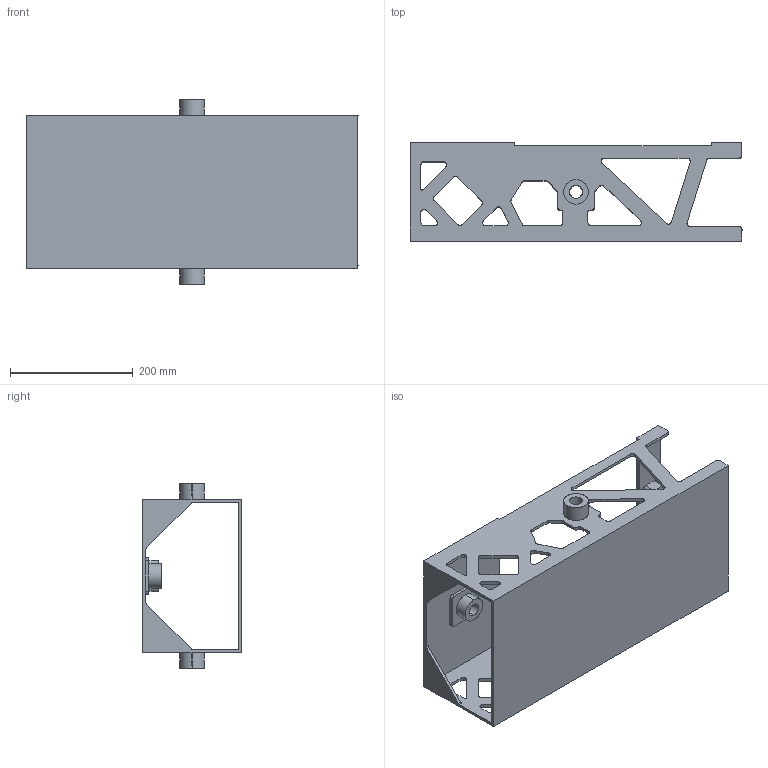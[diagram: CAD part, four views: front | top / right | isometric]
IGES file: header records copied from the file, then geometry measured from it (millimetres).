
Start section: SolidWorks IGES file using analytic representation for surfaces
Global section: file name: C:\Users\kaziw\OneDrive\Desktop\FEM PROJECT\CAD FILES\CHASSIS\OPTIMISED CHASSIS V3.IGS; native system: SolidWorks 2023; preprocessor: SolidWorks 2023; author: kaziw; date: 241118.153336; units: millimetre
Bounding box: 540 x 160 x 300 mm (x, y, z)
Surface area: 638543.1 mm2 (no closed solid volume)
Topology: 0 solids, 0 shells, 205 faces, 2748 edges, 2748 vertices
Faces by surface type: revolution 105, bspline 100
